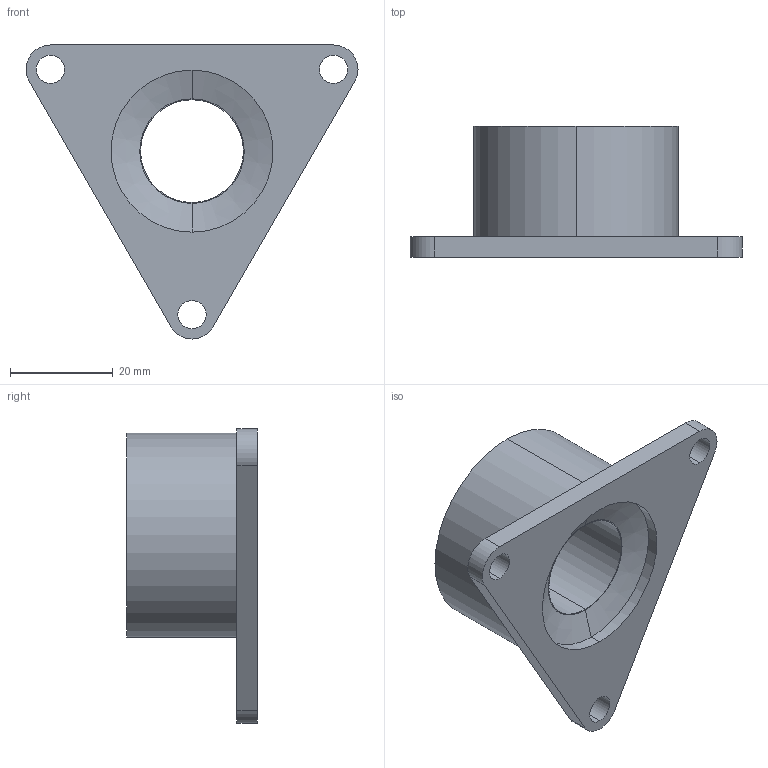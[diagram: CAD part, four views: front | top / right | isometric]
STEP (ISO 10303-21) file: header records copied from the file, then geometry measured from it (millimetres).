
FILE_DESCRIPTION (( 'STEP AP214' ), '1' );
FILE_NAME ('tps_adapter_body.STEP', '2025-04-15T00:04:43', ( '' ), ( '' ), 'SwSTEP 2.0', 'SolidWorks 2020', '' );
FILE_SCHEMA (( 'AUTOMOTIVE_DESIGN' ));
Length unit declared in the file: inch
Products named in the file (1): tps_adapter_body
Bounding box: 64.58 x 25.46 x 57.2 mm (x, y, z)
Volume: 25112.1 mm3; surface area: 9280.4 mm2
Topology: 1 solids, 1 shells, 31 faces, 73 edges, 48 vertices
Faces by surface type: cylinder 20, plane 9, cone 2
Entity records: 969 total; most frequent: DIRECTION 179, CARTESIAN_POINT 153, ORIENTED_EDGE 146, AXIS2_PLACEMENT_3D 74, EDGE_CURVE 73, VERTEX_POINT 48, EDGE_LOOP 43, CIRCLE 42
